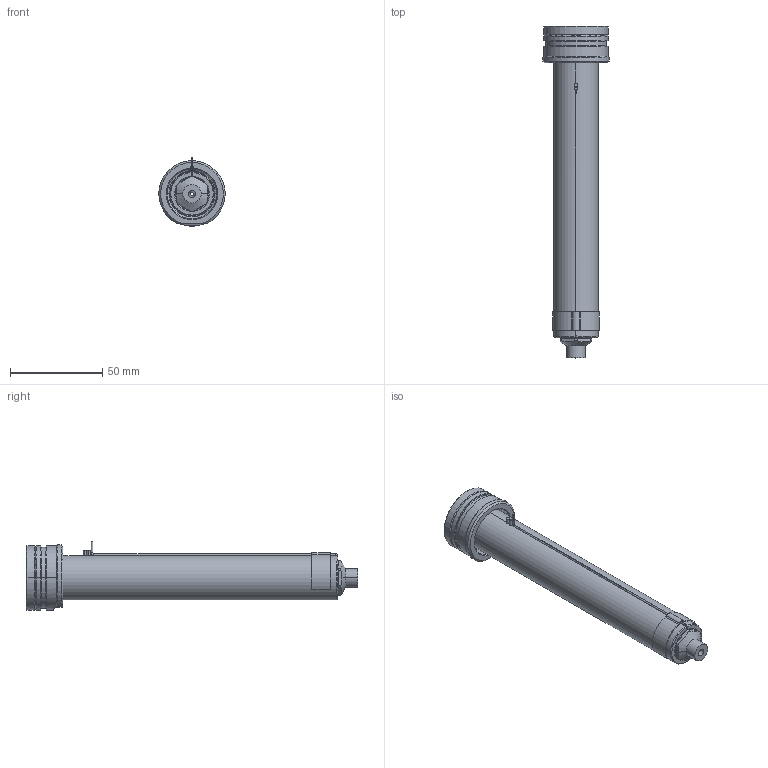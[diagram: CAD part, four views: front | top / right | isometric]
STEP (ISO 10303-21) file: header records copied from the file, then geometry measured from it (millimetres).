
FILE_DESCRIPTION((''),'2;1');
FILE_NAME('EO06_SG_SG_160_SW','2024-02-19T12:16:56',('sundharh'),(''),'CREO PARAMETRIC BY PTC INC, 2023154','CREO PARAMETRIC BY PTC INC, 2023154','');
FILE_SCHEMA(('CONFIG_CONTROL_DESIGN'));
Length unit declared in the file: millimetre
Products named in the file (1): EO06_SG_SG_160_SW
Bounding box: 35.93 x 180 x 37 mm (x, y, z)
Volume: 81366.1 mm3; surface area: 22273.4 mm2
Topology: 2 solids, 2 shells, 168 faces, 429 edges, 259 vertices
Faces by surface type: cylinder 68, plane 40, cone 30, torus 21, bspline 6, sphere 3
Entity records: 5810 total; most frequent: CARTESIAN_POINT 1708, DIRECTION 900, ORIENTED_EDGE 838, EDGE_CURVE 419, AXIS2_PLACEMENT_3D 375, VERTEX_POINT 259, CIRCLE 213, EDGE_LOOP 182
